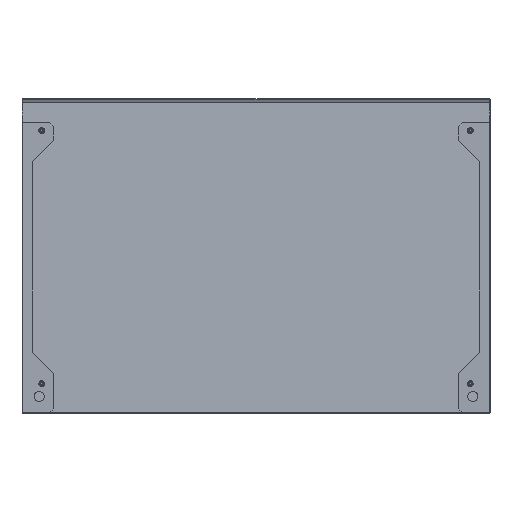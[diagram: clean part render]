
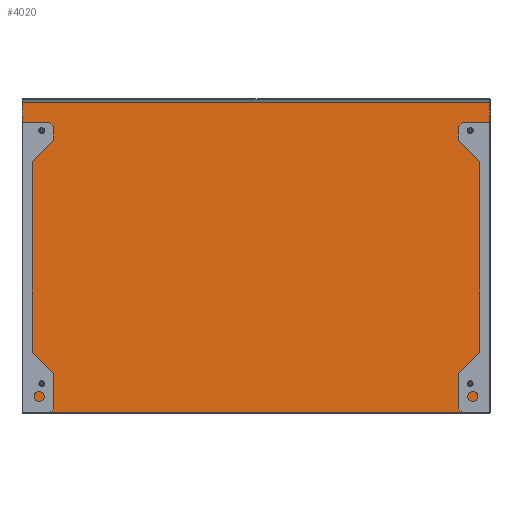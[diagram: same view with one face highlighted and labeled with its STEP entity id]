
A CAD part, front view. The second image highlights one B-rep face of the part: STEP entity #4020.
In plain terms, the highlighted planar face has unit normal (0, -0.999, 0.041).
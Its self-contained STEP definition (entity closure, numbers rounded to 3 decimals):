
#157 = VERTEX_POINT ( 'NONE', #1766 ) ;
#158 = VERTEX_POINT ( 'NONE', #1767 ) ;
#159 = VERTEX_POINT ( 'NONE', #1768 ) ;
#160 = VERTEX_POINT ( 'NONE', #1769 ) ;
#324 = EDGE_LOOP ( 'NONE', ( #1348, #1352, #1350, #1351 ) ) ;
#1264 = AXIS2_PLACEMENT_3D ( 'NONE', #2408, #2409, #2410 ) ;
#1273 = FACE_OUTER_BOUND ( 'NONE', #324, .T. ) ;
#1348 = ORIENTED_EDGE ( 'NONE', *, *, #3977, .F. ) ;
#1350 = ORIENTED_EDGE ( 'NONE', *, *, #3980, .F. ) ;
#1351 = ORIENTED_EDGE ( 'NONE', *, *, #3982, .F. ) ;
#1352 = ORIENTED_EDGE ( 'NONE', *, *, #3976, .F. ) ;
#1766 = CARTESIAN_POINT ( 'NONE',  ( -1208., 24.88, 1.975 ) ) ;
#1767 = CARTESIAN_POINT ( 'NONE',  ( -1208., 57.732, 803.545 ) ) ;
#1768 = CARTESIAN_POINT ( 'NONE',  ( -2., 24.88, 1.975 ) ) ;
#1769 = CARTESIAN_POINT ( 'NONE',  ( -2., 57.732, 803.545 ) ) ;
#2084 = VECTOR ( 'NONE', #2275, 1000. ) ;
#2086 = VECTOR ( 'NONE', #2290, 1000. ) ;
#2097 = VECTOR ( 'NONE', #2272, 1000. ) ;
#2104 = VECTOR ( 'NONE', #2283, 1000. ) ;
#2270 = LINE ( 'NONE', #2271, #2097 ) ;
#2271 = CARTESIAN_POINT ( 'NONE',  ( -1210., 24.88, 1.975 ) ) ;
#2272 = DIRECTION ( 'NONE',  ( -1., 0., 0. ) ) ;
#2273 = LINE ( 'NONE', #2274, #2084 ) ;
#2274 = CARTESIAN_POINT ( 'NONE',  ( -1208., 57.805, 805.313 ) ) ;
#2275 = DIRECTION ( 'NONE',  ( 0., 0.041, 0.999 ) ) ;
#2281 = LINE ( 'NONE', #2282, #2104 ) ;
#2282 = CARTESIAN_POINT ( 'NONE',  ( -2., 57.805, 805.313 ) ) ;
#2283 = DIRECTION ( 'NONE',  ( 0., -0.041, -0.999 ) ) ;
#2288 = LINE ( 'NONE', #2289, #2086 ) ;
#2289 = CARTESIAN_POINT ( 'NONE',  ( -1210., 57.732, 803.545 ) ) ;
#2290 = DIRECTION ( 'NONE',  ( 1., 0., 0. ) ) ;
#2407 = PLANE ( 'NONE',  #1264 ) ;
#2408 = CARTESIAN_POINT ( 'NONE',  ( -1210., 57.805, 805.313 ) ) ;
#2409 = DIRECTION ( 'NONE',  ( 0., 0.999, -0.041 ) ) ;
#2410 = DIRECTION ( 'NONE',  ( 0., 0.041, 0.999 ) ) ;
#3976 = EDGE_CURVE ( 'NONE', #159, #157, #2270, .T. ) ;
#3977 = EDGE_CURVE ( 'NONE', #157, #158, #2273, .T. ) ;
#3980 = EDGE_CURVE ( 'NONE', #160, #159, #2281, .T. ) ;
#3982 = EDGE_CURVE ( 'NONE', #158, #160, #2288, .T. ) ;
#4020 = ADVANCED_FACE ( 'NONE', ( #1273 ), #2407, .F. ) ;
